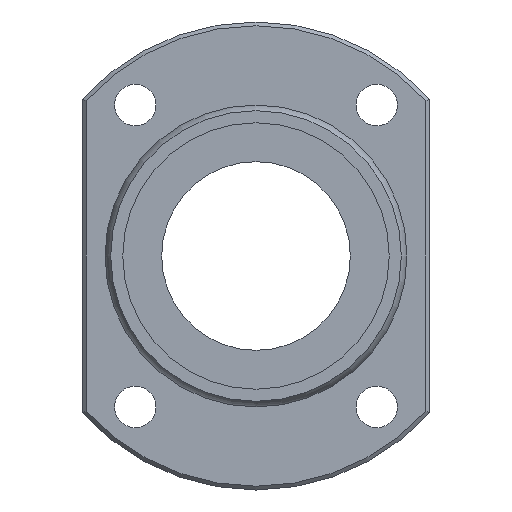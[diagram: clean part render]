
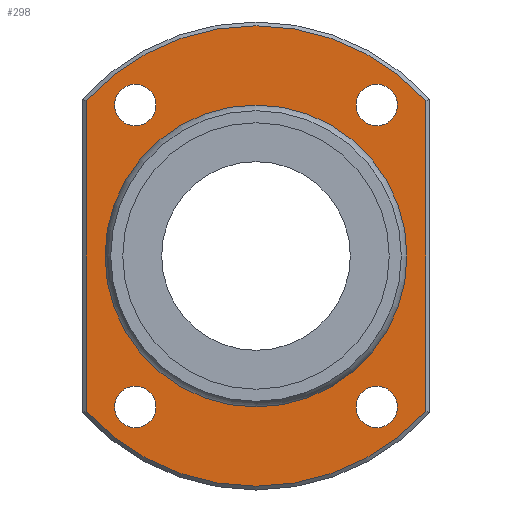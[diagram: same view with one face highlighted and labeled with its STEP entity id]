
A CAD part, left-side view. The second image highlights one B-rep face of the part: STEP entity #298.
In plain terms, the highlighted planar face has unit normal (-1, 0, 0).
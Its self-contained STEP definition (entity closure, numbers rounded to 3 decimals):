
#59=CARTESIAN_POINT('',(13.,22.5,-20.591));
#60=VERTEX_POINT('',#59);
#68=CARTESIAN_POINT('',(13.,22.5,20.591));
#69=VERTEX_POINT('',#68);
#70=CARTESIAN_POINT('',(13.,22.5,-20.591));
#71=DIRECTION('',(0.0,0.0,1.0));
#72=VECTOR('',#71,41.183);
#73=LINE('',#70,#72);
#74=EDGE_CURVE('',#60,#69,#73,.T.);
#101=CARTESIAN_POINT('',(13.,-22.5,20.591));
#102=VERTEX_POINT('',#101);
#103=CARTESIAN_POINT('',(13.,0.0,0.0));
#104=DIRECTION('',(1.0,0.0,0.0));
#105=DIRECTION('',(0.0,0.0,1.0));
#106=AXIS2_PLACEMENT_3D('',#103,#104,#105);
#107=CIRCLE('',#106,30.5);
#108=EDGE_CURVE('',#69,#102,#107,.T.);
#134=CARTESIAN_POINT('',(13.,-22.5,-20.591));
#135=VERTEX_POINT('',#134);
#136=CARTESIAN_POINT('',(13.,-22.5,20.591));
#137=DIRECTION('',(0.0,0.0,-1.0));
#138=VECTOR('',#137,41.183);
#139=LINE('',#136,#138);
#140=EDGE_CURVE('',#102,#135,#139,.T.);
#165=CARTESIAN_POINT('',(13.,0.0,0.0));
#166=DIRECTION('',(1.0,0.0,0.0));
#167=DIRECTION('',(0.0,0.0,-1.0));
#168=AXIS2_PLACEMENT_3D('',#165,#166,#167);
#169=CIRCLE('',#168,30.5);
#170=EDGE_CURVE('',#135,#60,#169,.T.);
#232=CARTESIAN_POINT('',(13.,0.0,25.282));
#233=DIRECTION('',(-1.0,0.0,0.0));
#234=DIRECTION('',(0.0,0.0,1.0));
#235=AXIS2_PLACEMENT_3D('',#232,#233,#234);
#236=PLANE('',#235);
#237=ORIENTED_EDGE('',*,*,#74,.F.);
#238=ORIENTED_EDGE('',*,*,#170,.F.);
#239=ORIENTED_EDGE('',*,*,#140,.F.);
#240=ORIENTED_EDGE('',*,*,#108,.F.);
#241=EDGE_LOOP('',(#237,#238,#239,#240));
#242=FACE_OUTER_BOUND('',#241,.T.);
#243=CARTESIAN_POINT('',(13.,0.0,19.564));
#244=VERTEX_POINT('',#243);
#245=CARTESIAN_POINT('',(13.,0.0,0.0));
#246=DIRECTION('',(-1.0,0.0,0.0));
#247=DIRECTION('',(0.0,0.0,1.0));
#248=AXIS2_PLACEMENT_3D('',#245,#246,#247);
#249=CIRCLE('',#248,19.564);
#250=EDGE_CURVE('',#244,#244,#249,.T.);
#251=ORIENTED_EDGE('',*,*,#250,.F.);
#252=EDGE_LOOP('',(#251));
#253=FACE_BOUND('',#252,.T.);
#254=CARTESIAN_POINT('',(13.,-18.75,-20.));
#255=VERTEX_POINT('',#254);
#256=CARTESIAN_POINT('',(13.,-16.,-20.));
#257=DIRECTION('',(1.0,0.0,0.0));
#258=DIRECTION('',(0.0,1.0,0.0));
#259=AXIS2_PLACEMENT_3D('',#256,#257,#258);
#260=CIRCLE('',#259,2.75);
#261=EDGE_CURVE('',#255,#255,#260,.T.);
#262=ORIENTED_EDGE('',*,*,#261,.T.);
#263=EDGE_LOOP('',(#262));
#264=FACE_BOUND('',#263,.T.);
#265=CARTESIAN_POINT('',(13.,-18.75,20.));
#266=VERTEX_POINT('',#265);
#267=CARTESIAN_POINT('',(13.,-16.,20.));
#268=DIRECTION('',(1.0,0.0,0.0));
#269=DIRECTION('',(0.0,1.0,0.0));
#270=AXIS2_PLACEMENT_3D('',#267,#268,#269);
#271=CIRCLE('',#270,2.75);
#272=EDGE_CURVE('',#266,#266,#271,.T.);
#273=ORIENTED_EDGE('',*,*,#272,.T.);
#274=EDGE_LOOP('',(#273));
#275=FACE_BOUND('',#274,.T.);
#276=CARTESIAN_POINT('',(13.,13.25,-20.));
#277=VERTEX_POINT('',#276);
#278=CARTESIAN_POINT('',(13.,16.,-20.));
#279=DIRECTION('',(1.0,0.0,0.0));
#280=DIRECTION('',(0.0,1.0,0.0));
#281=AXIS2_PLACEMENT_3D('',#278,#279,#280);
#282=CIRCLE('',#281,2.75);
#283=EDGE_CURVE('',#277,#277,#282,.T.);
#284=ORIENTED_EDGE('',*,*,#283,.T.);
#285=EDGE_LOOP('',(#284));
#286=FACE_BOUND('',#285,.T.);
#287=CARTESIAN_POINT('',(13.,13.25,20.));
#288=VERTEX_POINT('',#287);
#289=CARTESIAN_POINT('',(13.,16.,20.));
#290=DIRECTION('',(1.0,0.0,0.0));
#291=DIRECTION('',(0.0,1.0,0.0));
#292=AXIS2_PLACEMENT_3D('',#289,#290,#291);
#293=CIRCLE('',#292,2.75);
#294=EDGE_CURVE('',#288,#288,#293,.T.);
#295=ORIENTED_EDGE('',*,*,#294,.T.);
#296=EDGE_LOOP('',(#295));
#297=FACE_BOUND('',#296,.T.);
#298=ADVANCED_FACE('',(#242,#253,#264,#275,#286,#297),#236,.T.);
